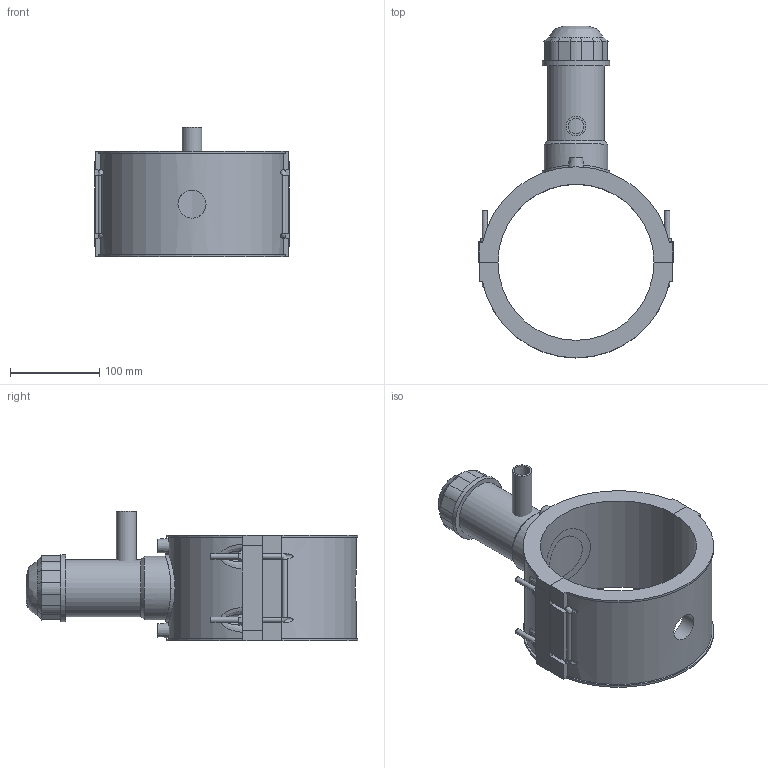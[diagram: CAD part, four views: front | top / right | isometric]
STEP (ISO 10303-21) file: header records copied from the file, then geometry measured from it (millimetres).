
FILE_DESCRIPTION(/* description */ ('PLASSON TAPPING SADDLE 6''''DIPS x 3/4''''CTS'),/* implementation_level */ '2;1');
FILE_NAME(/* name */ 'C:\Dropbox\KIMPROJECTS-Inventor 2019\99-16-3568-Processing Inch\ASTM ElectroFusion 2021\5963DBP_5963BUP\5963DUP3060007.ipt.stp',/* time_stamp */ '2021-08-30T09:59:02+03:00',/* author */ ('KIM'),/* organization */ (''),/* preprocessor_version */ 'ST-DEVELOPER v17.2',/* originating_system */ 'Autodesk Inventor 2019',/* authorisation */ '');
FILE_SCHEMA (('AUTOMOTIVE_DESIGN { 1 0 10303 214 3 1 1 }'));
Length unit declared in the file: inch
Products named in the file (1): 5963DUP3060007
Bounding box: 217.9 x 371.08 x 145.16 mm (x, y, z)
Volume: 1645887.2 mm3; surface area: 269851.4 mm2
Topology: 3 solids, 3 shells, 200 faces, 521 edges, 340 vertices
Faces by surface type: plane 125, cylinder 51, cone 15, bspline 9
Full cylindrical faces by diameter (mm): 4 x2, 6 x8, 10 x2, 17.68 x1, 22.1 x1, 31.36 x1, 52.524 x1, 63.78 x1, 71.283 x1, 75.035 x2
Entity records: 7416 total; most frequent: CARTESIAN_POINT 2469, ORIENTED_EDGE 1042, DIRECTION 976, EDGE_CURVE 521, VERTEX_POINT 340, AXIS2_PLACEMENT_3D 330, LINE 316, VECTOR 316
